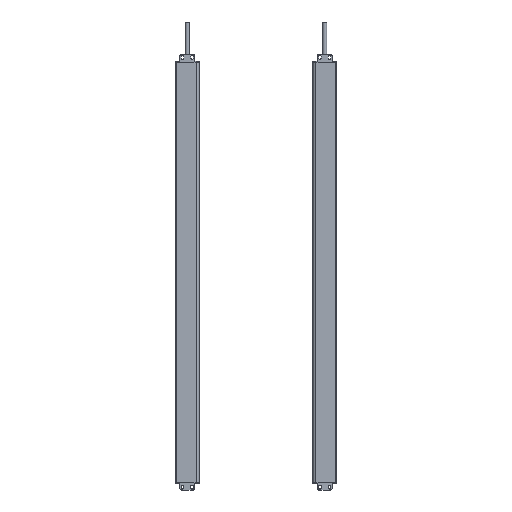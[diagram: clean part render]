
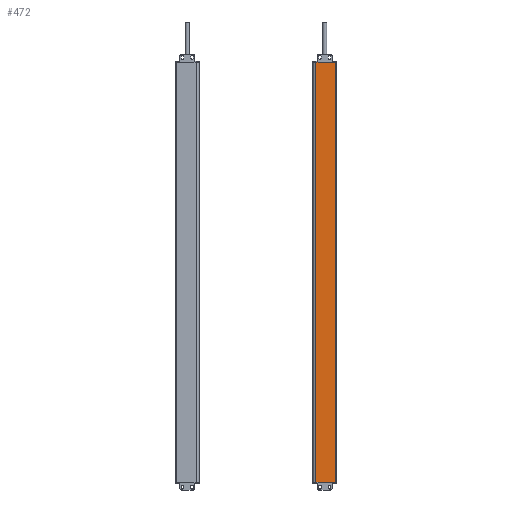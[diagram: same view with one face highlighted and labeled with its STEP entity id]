
A CAD part, front view. The second image highlights one B-rep face of the part: STEP entity #472.
In plain terms, the highlighted planar face has unit normal (0, -1, 0).
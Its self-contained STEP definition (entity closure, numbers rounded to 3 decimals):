
#291=PLANE('',#5985);
#472=ADVANCED_FACE('',(#904),#291,.T.);
#904=FACE_OUTER_BOUND('',#1178,.T.);
#1178=EDGE_LOOP('',(#2781,#2782,#2783,#2784));
#1583=LINE('',#8433,#2137);
#1585=LINE('',#8442,#2139);
#1586=LINE('',#8445,#2140);
#1587=LINE('',#8446,#2141);
#2137=VECTOR('',#6736,1.);
#2139=VECTOR('',#6744,1.);
#2140=VECTOR('',#6745,1.);
#2141=VECTOR('',#6746,1.);
#2781=ORIENTED_EDGE('',*,*,#4939,.F.);
#2782=ORIENTED_EDGE('',*,*,#4940,.T.);
#2783=ORIENTED_EDGE('',*,*,#4935,.T.);
#2784=ORIENTED_EDGE('',*,*,#4941,.F.);
#4337=VERTEX_POINT('',#8434);
#4338=VERTEX_POINT('',#8435);
#4341=VERTEX_POINT('',#8443);
#4342=VERTEX_POINT('',#8444);
#4935=EDGE_CURVE('',#4337,#4338,#1583,.T.);
#4939=EDGE_CURVE('',#4341,#4342,#1585,.T.);
#4940=EDGE_CURVE('',#4341,#4337,#1586,.T.);
#4941=EDGE_CURVE('',#4342,#4338,#1587,.T.);
#5985=AXIS2_PLACEMENT_3D('',#8447,#6747,#6748);
#6736=DIRECTION('',(0.,0.,1.));
#6744=DIRECTION('',(0.,0.,1.));
#6745=DIRECTION('',(1.,0.,0.));
#6746=DIRECTION('',(1.,0.,0.));
#6747=DIRECTION('',(0.,-1.,0.));
#6748=DIRECTION('',(-1.,0.,0.));
#8433=CARTESIAN_POINT('',(3.35,-1.3,-100.));
#8434=CARTESIAN_POINT('',(3.35,-1.3,-160.));
#8435=CARTESIAN_POINT('',(3.35,-1.3,362.));
#8442=CARTESIAN_POINT('',(-21.15,-1.3,-100.));
#8443=CARTESIAN_POINT('',(-21.15,-1.3,-160.));
#8444=CARTESIAN_POINT('',(-21.15,-1.3,362.));
#8445=CARTESIAN_POINT('',(-4122.897,-1.3,-160.));
#8446=CARTESIAN_POINT('',(-4122.897,-1.3,362.));
#8447=CARTESIAN_POINT('',(-21.15,-1.3,-100.));
